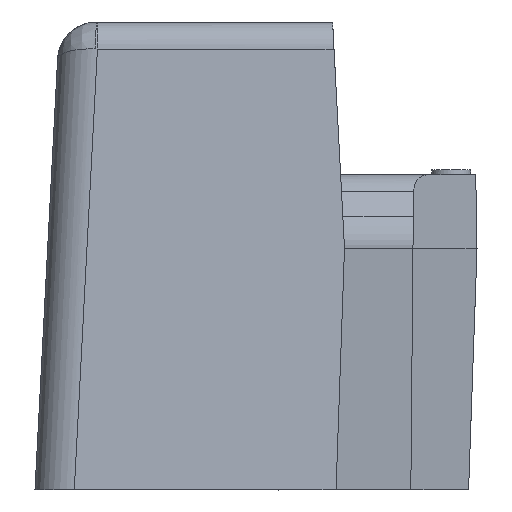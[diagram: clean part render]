
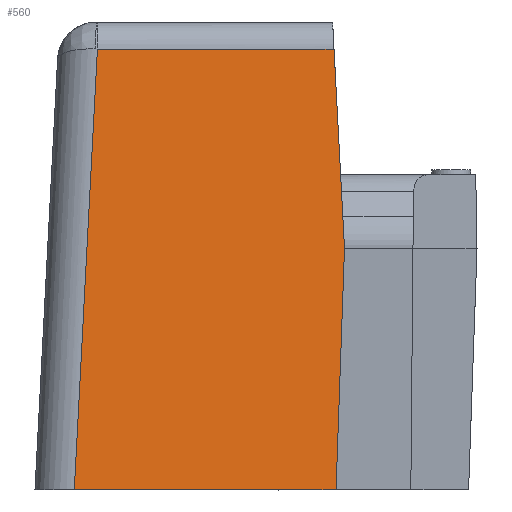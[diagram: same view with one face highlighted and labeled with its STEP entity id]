
A CAD part, front view. The second image highlights one B-rep face of the part: STEP entity #560.
In plain terms, the highlighted planar face has unit normal (0, -0.996, 0.087).
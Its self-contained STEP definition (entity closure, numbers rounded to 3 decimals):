
#462=CARTESIAN_POINT('Vertex',(145.399,-19.217,8.948)) ;
#466=CARTESIAN_POINT('Control Point',(145.611,-19.571,4.901)) ;
#467=CARTESIAN_POINT('Control Point',(145.399,-19.217,8.948)) ;
#468=CARTESIAN_POINT('Vertex',(145.611,-19.571,4.901)) ;
#522=CARTESIAN_POINT('Axis2P3D Location',(139.6,-20.,0.)) ;
#527=CARTESIAN_POINT('Line Origine',(140.363,-19.609,4.474)) ;
#531=CARTESIAN_POINT('Vertex',(140.129,-20.,0.)) ;
#533=CARTESIAN_POINT('Vertex',(140.597,-19.217,8.948)) ;
#536=CARTESIAN_POINT('Line Origine',(142.784,-20.,0.)) ;
#540=CARTESIAN_POINT('Vertex',(145.44,-20.,0.)) ;
#543=CARTESIAN_POINT('Line Origine',(145.525,-19.786,2.451)) ;
#548=CARTESIAN_POINT('Line Origine',(142.998,-19.217,8.948)) ;
#523=DIRECTION('Axis2P3D Direction',(0.,0.996,-0.087)) ;
#524=DIRECTION('Axis2P3D XDirection',(0.,0.087,0.996)) ;
#528=DIRECTION('Vector Direction',(-0.052,-0.087,-0.995)) ;
#537=DIRECTION('Vector Direction',(1.,0.,0.)) ;
#544=DIRECTION('Vector Direction',(0.035,0.087,0.996)) ;
#549=DIRECTION('Vector Direction',(1.,0.,0.)) ;
#525=AXIS2_PLACEMENT_3D('Plane Axis2P3D',#522,#523,#524) ;
#554=ORIENTED_EDGE('',*,*,#535,.F.) ;
#555=ORIENTED_EDGE('',*,*,#542,.T.) ;
#556=ORIENTED_EDGE('',*,*,#547,.T.) ;
#557=ORIENTED_EDGE('',*,*,#470,.T.) ;
#558=ORIENTED_EDGE('',*,*,#552,.F.) ;
#529=VECTOR('Line Direction',#528,1.) ;
#538=VECTOR('Line Direction',#537,1.) ;
#545=VECTOR('Line Direction',#544,1.) ;
#550=VECTOR('Line Direction',#549,1.) ;
#560=ADVANCED_FACE('Endcap-B',(#559),#526,.F.) ;
#465=B_SPLINE_CURVE_WITH_KNOTS('',1,(#466,#467),.UNSPECIFIED.,.F.,.U.,(2,2),(-2.034,2.034),.UNSPECIFIED.) ;
#470=EDGE_CURVE('',#469,#463,#465,.T.) ;
#535=EDGE_CURVE('',#532,#534,#530,.F.) ;
#542=EDGE_CURVE('',#532,#541,#539,.T.) ;
#547=EDGE_CURVE('',#541,#469,#546,.T.) ;
#552=EDGE_CURVE('',#534,#463,#551,.T.) ;
#553=EDGE_LOOP('',(#554,#555,#556,#557,#558)) ;
#559=FACE_OUTER_BOUND('',#553,.T.) ;
#530=LINE('Line',#527,#529) ;
#539=LINE('Line',#536,#538) ;
#546=LINE('Line',#543,#545) ;
#551=LINE('Line',#548,#550) ;
#526=PLANE('',#525) ;
#463=VERTEX_POINT('',#462) ;
#469=VERTEX_POINT('',#468) ;
#532=VERTEX_POINT('',#531) ;
#534=VERTEX_POINT('',#533) ;
#541=VERTEX_POINT('',#540) ;
